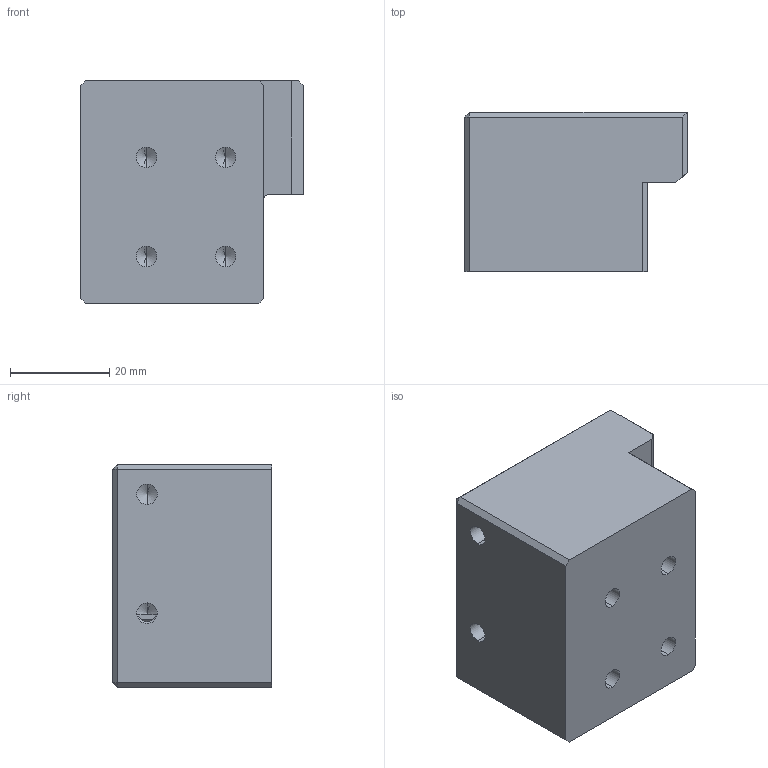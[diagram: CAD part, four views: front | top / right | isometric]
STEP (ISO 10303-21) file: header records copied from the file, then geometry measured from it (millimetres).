
FILE_DESCRIPTION (( 'STEP AP214' ), '1' );
FILE_NAME ('GZ29.13_V1定位块.STEP', '2021-07-06T06:53:28', ( '微软中国' ), ( 'Microsoft' ), 'SwSTEP 2.0', 'SolidWorks 2017', '' );
FILE_SCHEMA (( 'AUTOMOTIVE_DESIGN' ));
Length unit declared in the file: millimetre
Products named in the file (1): GZ29.13_V1隅弇輸
Bounding box: 45 x 32.15 x 45 mm (x, y, z)
Volume: 45971.9 mm3; surface area: 10906.3 mm2
Topology: 1 solids, 1 shells, 103 faces, 252 edges, 143 vertices
Faces by surface type: plane 78, cylinder 13, cone 12
Entity records: 3018 total; most frequent: CARTESIAN_POINT 505, ORIENTED_EDGE 480, DIRECTION 474, EDGE_CURVE 240, LINE 210, VECTOR 210, VERTEX_POINT 143, AXIS2_PLACEMENT_3D 132
